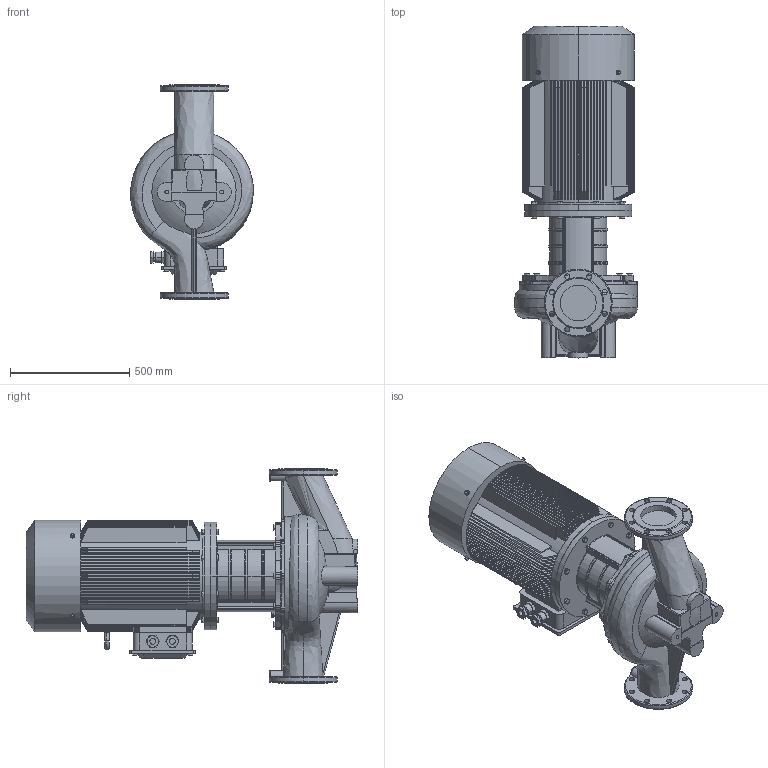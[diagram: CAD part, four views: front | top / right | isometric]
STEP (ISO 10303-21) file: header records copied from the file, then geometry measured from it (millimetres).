
FILE_DESCRIPTION (( 'STEP AP203' ), '1' );
FILE_NAME ('TD150-50G／4.STEP', '2026-09-07T03:03:50', ( '' ), ( '' ), 'SwSTEP 2.0', 'SolidWorks 2020', '' );
FILE_SCHEMA (( 'CONFIG_CONTROL_DESIGN' ));
Length unit declared in the file: millimetre
Products named in the file (1): TD150-50Gㄞ4
Bounding box: 514.71 x 1393 x 900 mm (x, y, z)
Volume: 187858913 mm3; surface area: 7143089.9 mm2
Topology: 1 solids, 13 shells, 1894 faces, 4780 edges, 2957 vertices
Faces by surface type: plane 780, cone 498, cylinder 471, torus 90, sphere 28, bspline 27
Entity records: 79535 total; most frequent: CARTESIAN_POINT 35105, ORIENTED_EDGE 9504, DIRECTION 9099, EDGE_CURVE 4752, AXIS2_PLACEMENT_3D 3633, VERTEX_POINT 2957, EDGE_LOOP 2019, ADVANCED_FACE 1894
